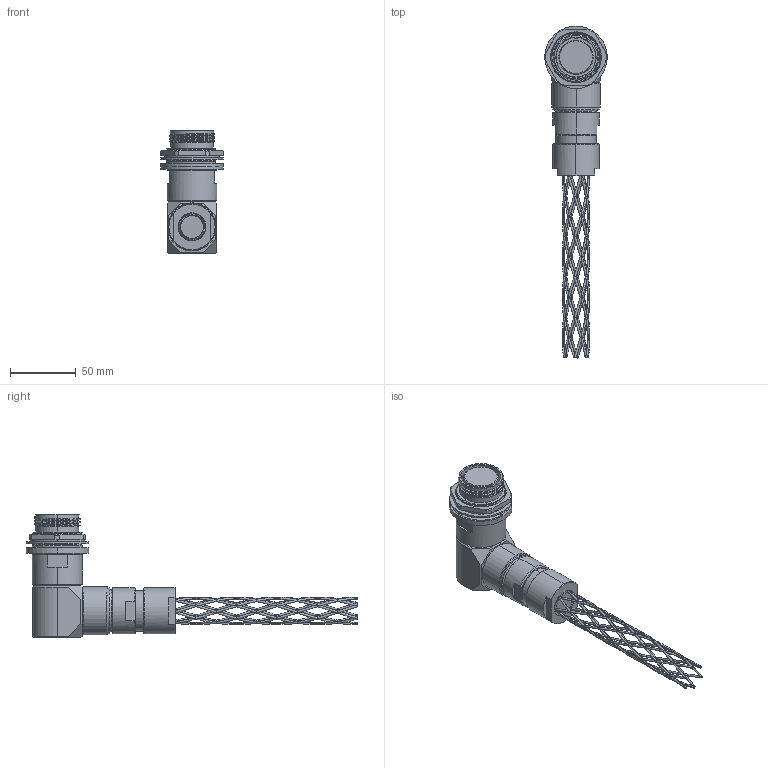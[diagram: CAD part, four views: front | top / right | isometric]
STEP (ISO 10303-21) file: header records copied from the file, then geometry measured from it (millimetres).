
FILE_DESCRIPTION (( 'STEP AP214' ), '1' );
FILE_NAME ('QLINK90-RJTX-21XX-GXXX.STEP', '2025-10-23T14:38:10', ( '' ), ( '' ), 'SwSTEP 2.0', 'SolidWorks 2024', '' );
FILE_SCHEMA (( 'AUTOMOTIVE_DESIGN' ));
Length unit declared in the file: millimetre
Products named in the file (1): QLINK90-RJTX-21XX-GXXX
Bounding box: 47.37 x 251.59 x 93.22 mm (x, y, z)
Volume: 175217.9 mm3; surface area: 42189 mm2
Topology: 2 solids, 4 shells, 513 faces, 1419 edges, 827 vertices
Faces by surface type: bspline 258, cylinder 94, plane 87, cone 51, torus 23
Entity records: 129183 total; most frequent: CARTESIAN_POINT 119094, ORIENTED_EDGE 2838, EDGE_CURVE 1419, DIRECTION 1394, VERTEX_POINT 827, AXIS2_PLACEMENT_3D 580, EDGE_LOOP 544, ADVANCED_FACE 513
